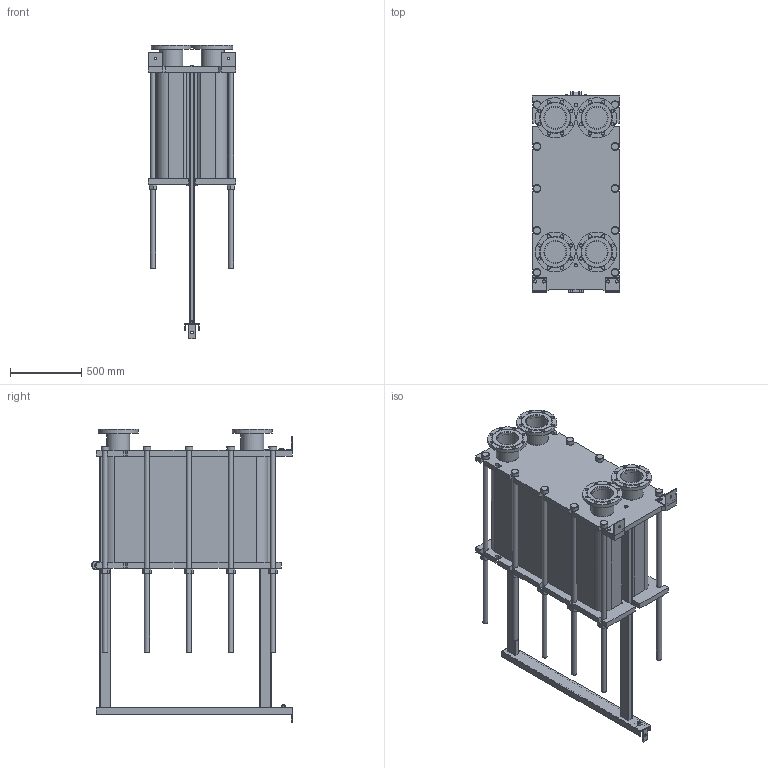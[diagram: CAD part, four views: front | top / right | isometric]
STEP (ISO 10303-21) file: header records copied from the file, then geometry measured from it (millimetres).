
FILE_DESCRIPTION(/* description */ (''),/* implementation_level */ '2;1');
FILE_NAME(/* name */ 'C:\Users\zhuro\Desktop\ENCO\TO\ЭН-041\ЭН-0,5-041-216-1.stp',/* time_stamp */ '2022-06-06T11:07:10+03:00',/* author */ ('zhuro'),/* organization */ (''),/* preprocessor_version */ 'ST-DEVELOPER v18.1',/* originating_system */ 'Autodesk Inventor 2022',/* authorisation */ '');
FILE_SCHEMA (('AUTOMOTIVE_DESIGN { 1 0 10303 214 3 1 1 }'));
Length unit declared in the file: millimetre
Products named in the file (1): ЭН-0,5-041-216-1
Bounding box: 610 x 1406.5 x 2060 mm (x, y, z)
Volume: 507753028.9 mm3; surface area: 11582216 mm2
Topology: 52 solids, 52 shells, 711 faces, 1696 edges, 1094 vertices
Faces by surface type: plane 487, cylinder 177, cone 41, torus 6
Full cylindrical faces by diameter (mm): 8 x4, 10 x2, 16 x8, 18 x3, 22 x32, 36 x24, 50 x1, 54 x10, 60 x12, 151 x4, 161 x8, 280 x4
Entity records: 22667 total; most frequent: CARTESIAN_POINT 5230, DIRECTION 3644, ORIENTED_EDGE 3392, EDGE_CURVE 1696, AXIS2_PLACEMENT_3D 1272, LINE 1100, VECTOR 1100, VERTEX_POINT 1094
